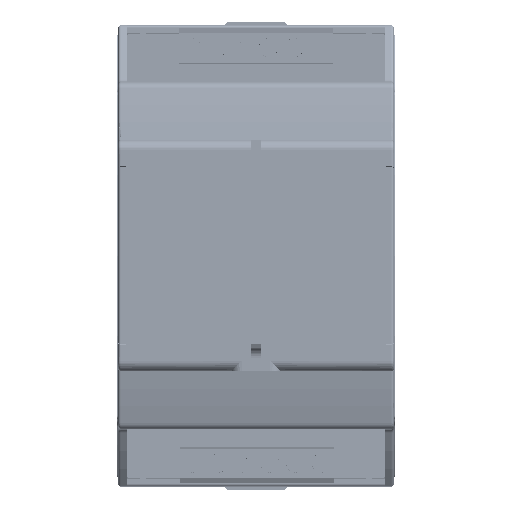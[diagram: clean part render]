
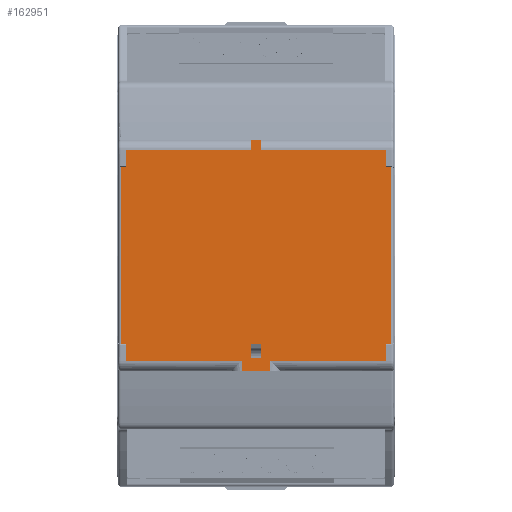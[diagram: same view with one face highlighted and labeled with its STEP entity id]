
A CAD part, top view. The second image highlights one B-rep face of the part: STEP entity #162951.
In plain terms, the highlighted planar face has unit normal (0, 0, 1) as drawn and (0, 1, 0) by its records, which use the part's own axes.
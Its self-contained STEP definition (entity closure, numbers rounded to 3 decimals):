
#4140=FACE_BOUND('',#27563,.T.);
#18203=FACE_OUTER_BOUND('',#27562,.T.);
#27562=EDGE_LOOP('',(#147251,#147252,#147253,#147254,#147255,#147256,#147257,
#147258,#147259,#147260,#147261,#147262,#147263,#147264,#147265,#147266,
#147267,#147268,#147269,#147270));
#27563=EDGE_LOOP('',(#147271,#147272,#147273,#147274));
#46099=LINE('',#269142,#64796);
#46141=LINE('',#269239,#64838);
#46147=LINE('',#269259,#64844);
#46153=LINE('',#269275,#64850);
#46157=LINE('',#269290,#64854);
#46158=LINE('',#269294,#64855);
#46162=LINE('',#269301,#64859);
#46167=LINE('',#269311,#64864);
#46168=LINE('',#269317,#64865);
#46171=LINE('',#269325,#64868);
#46181=LINE('',#269348,#64878);
#46206=LINE('',#269394,#64903);
#46218=LINE('',#269418,#64915);
#46220=LINE('',#269424,#64917);
#46222=LINE('',#269433,#64919);
#46231=LINE('',#269457,#64928);
#46235=LINE('',#269463,#64932);
#46240=LINE('',#269473,#64937);
#46246=LINE('',#269483,#64943);
#46254=LINE('',#269501,#64951);
#46257=LINE('',#269508,#64954);
#46264=LINE('',#269523,#64961);
#46265=LINE('',#269524,#64962);
#46267=LINE('',#269530,#64964);
#64796=VECTOR('',#221749,1.);
#64838=VECTOR('',#221819,1.);
#64844=VECTOR('',#221839,1.);
#64850=VECTOR('',#221853,1.);
#64854=VECTOR('',#221867,1.);
#64855=VECTOR('',#221872,1.);
#64859=VECTOR('',#221878,1.);
#64864=VECTOR('',#221887,1.);
#64865=VECTOR('',#221894,1.);
#64868=VECTOR('',#221899,1.);
#64878=VECTOR('',#221915,1.);
#64903=VECTOR('',#221960,1.);
#64915=VECTOR('',#221984,1.);
#64917=VECTOR('',#221990,1.);
#64919=VECTOR('',#222002,1.);
#64928=VECTOR('',#222023,1.);
#64932=VECTOR('',#222031,1.);
#64937=VECTOR('',#222042,1.);
#64943=VECTOR('',#222050,1.);
#64951=VECTOR('',#222074,1.);
#64954=VECTOR('',#222079,1.);
#64961=VECTOR('',#222096,1.);
#64962=VECTOR('',#222097,1.);
#64964=VECTOR('',#222107,1.);
#79800=VERTEX_POINT('',#269139);
#79801=VERTEX_POINT('',#269141);
#79841=VERTEX_POINT('',#269236);
#79842=VERTEX_POINT('',#269238);
#79848=VERTEX_POINT('',#269257);
#79849=VERTEX_POINT('',#269258);
#79855=VERTEX_POINT('',#269273);
#79860=VERTEX_POINT('',#269287);
#79861=VERTEX_POINT('',#269289);
#79862=VERTEX_POINT('',#269293);
#79863=VERTEX_POINT('',#269298);
#79864=VERTEX_POINT('',#269300);
#79867=VERTEX_POINT('',#269309);
#79868=VERTEX_POINT('',#269314);
#79869=VERTEX_POINT('',#269316);
#79872=VERTEX_POINT('',#269322);
#79873=VERTEX_POINT('',#269324);
#79880=VERTEX_POINT('',#269340);
#79883=VERTEX_POINT('',#269346);
#79901=VERTEX_POINT('',#269420);
#79904=VERTEX_POINT('',#269432);
#79913=VERTEX_POINT('',#269455);
#79920=VERTEX_POINT('',#269499);
#79923=VERTEX_POINT('',#269507);
#102240=EDGE_CURVE('',#79800,#79801,#46099,.T.);
#102286=EDGE_CURVE('',#79842,#79841,#46141,.T.);
#102295=EDGE_CURVE('',#79848,#79849,#46147,.T.);
#102303=EDGE_CURVE('',#79841,#79855,#46153,.T.);
#102310=EDGE_CURVE('',#79860,#79861,#46157,.T.);
#102312=EDGE_CURVE('',#79842,#79862,#46158,.T.);
#102316=EDGE_CURVE('',#79863,#79864,#46162,.T.);
#102322=EDGE_CURVE('',#79867,#79800,#46167,.T.);
#102325=EDGE_CURVE('',#79868,#79869,#46168,.T.);
#102329=EDGE_CURVE('',#79872,#79873,#46171,.T.);
#102341=EDGE_CURVE('',#79883,#79880,#46181,.T.);
#102366=EDGE_CURVE('',#79855,#79862,#46206,.T.);
#102378=EDGE_CURVE('',#79863,#79861,#46218,.T.);
#102381=EDGE_CURVE('',#79880,#79901,#46220,.T.);
#102386=EDGE_CURVE('',#79904,#79872,#46222,.T.);
#102398=EDGE_CURVE('',#79904,#79913,#46231,.T.);
#102402=EDGE_CURVE('',#79869,#79913,#46235,.T.);
#102407=EDGE_CURVE('',#79849,#79873,#46240,.T.);
#102413=EDGE_CURVE('',#79867,#79848,#46246,.T.);
#102422=EDGE_CURVE('',#79920,#79868,#46254,.T.);
#102425=EDGE_CURVE('',#79901,#79923,#46257,.T.);
#102434=EDGE_CURVE('',#79883,#79801,#46264,.T.);
#102435=EDGE_CURVE('',#79860,#79923,#46265,.T.);
#102437=EDGE_CURVE('',#79864,#79920,#46267,.T.);
#147251=ORIENTED_EDGE('',*,*,#102422,.F.);
#147252=ORIENTED_EDGE('',*,*,#102437,.F.);
#147253=ORIENTED_EDGE('',*,*,#102316,.F.);
#147254=ORIENTED_EDGE('',*,*,#102378,.T.);
#147255=ORIENTED_EDGE('',*,*,#102310,.F.);
#147256=ORIENTED_EDGE('',*,*,#102435,.T.);
#147257=ORIENTED_EDGE('',*,*,#102425,.F.);
#147258=ORIENTED_EDGE('',*,*,#102381,.F.);
#147259=ORIENTED_EDGE('',*,*,#102341,.F.);
#147260=ORIENTED_EDGE('',*,*,#102434,.T.);
#147261=ORIENTED_EDGE('',*,*,#102240,.F.);
#147262=ORIENTED_EDGE('',*,*,#102322,.F.);
#147263=ORIENTED_EDGE('',*,*,#102413,.T.);
#147264=ORIENTED_EDGE('',*,*,#102295,.T.);
#147265=ORIENTED_EDGE('',*,*,#102407,.T.);
#147266=ORIENTED_EDGE('',*,*,#102329,.F.);
#147267=ORIENTED_EDGE('',*,*,#102386,.F.);
#147268=ORIENTED_EDGE('',*,*,#102398,.T.);
#147269=ORIENTED_EDGE('',*,*,#102402,.F.);
#147270=ORIENTED_EDGE('',*,*,#102325,.F.);
#147271=ORIENTED_EDGE('',*,*,#102286,.T.);
#147272=ORIENTED_EDGE('',*,*,#102303,.T.);
#147273=ORIENTED_EDGE('',*,*,#102366,.T.);
#147274=ORIENTED_EDGE('',*,*,#102312,.F.);
#154581=PLANE('',#178299);
#162951=ADVANCED_FACE('',(#18203,#4140),#154581,.T.);
#178299=AXIS2_PLACEMENT_3D('',#269529,#222105,#222106);
#221749=DIRECTION('',(0.,0.,-1.));
#221819=DIRECTION('',(0.,0.,-1.));
#221839=DIRECTION('',(1.,0.,0.));
#221853=DIRECTION('',(1.,0.,0.));
#221867=DIRECTION('',(0.,0.,1.));
#221872=DIRECTION('',(1.,0.,0.));
#221878=DIRECTION('',(0.,0.,1.));
#221887=DIRECTION('',(1.,0.,0.));
#221894=DIRECTION('',(-1.,0.,0.));
#221899=DIRECTION('',(-1.,0.,0.));
#221915=DIRECTION('',(0.,0.,-1.));
#221960=DIRECTION('',(0.,0.,1.));
#221984=DIRECTION('',(-1.,0.,0.));
#221990=DIRECTION('',(1.,0.,0.));
#222002=DIRECTION('',(0.,0.,-1.));
#222023=DIRECTION('',(1.,0.,0.));
#222031=DIRECTION('',(0.,0.,1.));
#222042=DIRECTION('',(0.,0.,1.));
#222050=DIRECTION('',(0.,0.,1.));
#222074=DIRECTION('',(0.,0.,1.));
#222079=DIRECTION('',(0.,0.,1.));
#222096=DIRECTION('',(-1.,0.,0.));
#222097=DIRECTION('',(-1.,0.,0.));
#222105=DIRECTION('center_axis',(0.,1.,0.));
#222106=DIRECTION('ref_axis',(-1.,0.,0.));
#222107=DIRECTION('',(-1.,0.,0.));
#269139=CARTESIAN_POINT('',(-13.262,54.7,3.914));
#269141=CARTESIAN_POINT('',(-13.262,54.7,-18.486));
#269142=CARTESIAN_POINT('',(-13.262,54.7,-20.086));
#269236=CARTESIAN_POINT('',(-12.662,54.7,5.714));
#269238=CARTESIAN_POINT('',(-12.662,54.7,7.714));
#269239=CARTESIAN_POINT('',(-12.662,54.7,-0.1));
#269257=CARTESIAN_POINT('',(-15.262,54.7,9.514));
#269258=CARTESIAN_POINT('',(-13.262,54.7,9.514));
#269259=CARTESIAN_POINT('',(1.588,54.7,9.514));
#269273=CARTESIAN_POINT('',(-9.943,54.7,5.714));
#269275=CARTESIAN_POINT('',(5.65,54.7,5.714));
#269287=CARTESIAN_POINT('',(27.738,54.7,-18.486));
#269289=CARTESIAN_POINT('',(27.738,54.7,5.714));
#269290=CARTESIAN_POINT('',(27.738,54.7,0.768));
#269293=CARTESIAN_POINT('',(-9.943,54.7,7.714));
#269294=CARTESIAN_POINT('',(5.65,54.7,7.714));
#269298=CARTESIAN_POINT('',(29.738,54.7,5.714));
#269300=CARTESIAN_POINT('',(29.738,54.7,7.714));
#269301=CARTESIAN_POINT('',(29.738,54.7,-0.1));
#269309=CARTESIAN_POINT('',(-15.262,54.7,3.914));
#269311=CARTESIAN_POINT('',(1.588,54.7,3.914));
#269314=CARTESIAN_POINT('',(27.738,54.7,31.914));
#269316=CARTESIAN_POINT('',(24.438,54.7,31.914));
#269317=CARTESIAN_POINT('',(5.65,54.7,31.914));
#269322=CARTESIAN_POINT('',(-9.962,54.7,31.914));
#269324=CARTESIAN_POINT('',(-13.262,54.7,31.914));
#269325=CARTESIAN_POINT('',(5.65,54.7,31.914));
#269340=CARTESIAN_POINT('',(-9.962,54.7,-19.586));
#269346=CARTESIAN_POINT('',(-9.962,54.7,-18.486));
#269348=CARTESIAN_POINT('',(-9.962,54.7,-0.1));
#269394=CARTESIAN_POINT('',(-9.943,54.7,-0.1));
#269418=CARTESIAN_POINT('',(5.65,54.7,5.714));
#269420=CARTESIAN_POINT('',(24.438,54.7,-19.586));
#269424=CARTESIAN_POINT('',(27.738,54.7,-19.586));
#269432=CARTESIAN_POINT('',(-9.962,54.7,33.014));
#269433=CARTESIAN_POINT('',(-9.962,54.7,-0.1));
#269455=CARTESIAN_POINT('',(24.438,54.7,33.014));
#269457=CARTESIAN_POINT('',(27.738,54.7,33.014));
#269463=CARTESIAN_POINT('',(24.438,54.7,-0.1));
#269473=CARTESIAN_POINT('',(-13.262,54.7,42.514));
#269483=CARTESIAN_POINT('',(-15.262,54.7,-0.1));
#269499=CARTESIAN_POINT('',(27.738,54.7,7.714));
#269501=CARTESIAN_POINT('',(27.738,54.7,13.989));
#269507=CARTESIAN_POINT('',(24.438,54.7,-18.486));
#269508=CARTESIAN_POINT('',(24.438,54.7,-0.1));
#269523=CARTESIAN_POINT('',(5.65,54.7,-18.486));
#269524=CARTESIAN_POINT('',(5.65,54.7,-18.486));
#269529=CARTESIAN_POINT('Origin',(27.738,54.7,1.769));
#269530=CARTESIAN_POINT('',(5.65,54.7,7.714));
